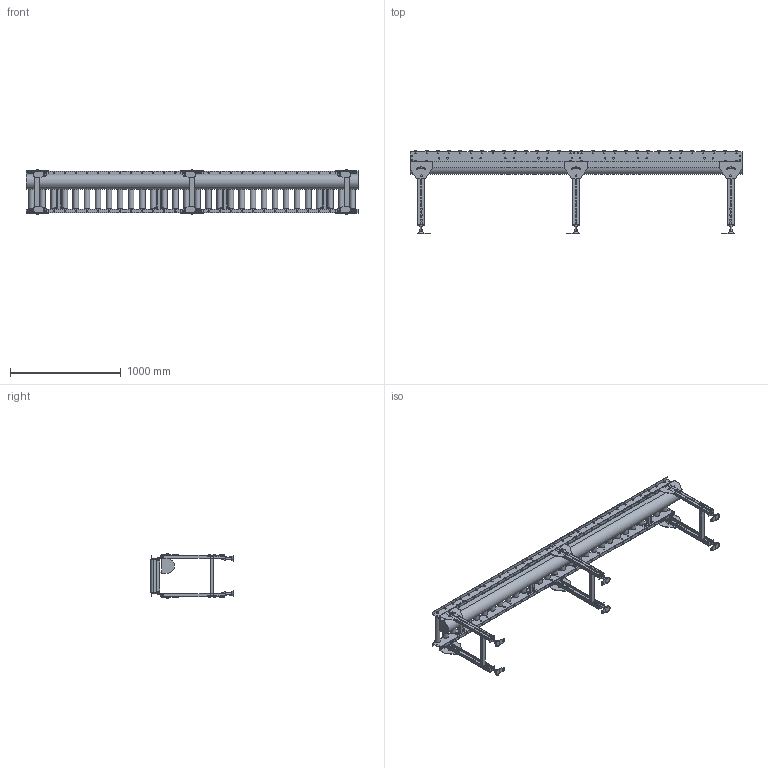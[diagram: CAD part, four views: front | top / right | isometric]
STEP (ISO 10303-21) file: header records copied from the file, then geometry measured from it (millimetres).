
FILE_DESCRIPTION (( 'STEP AP214' ), '1' );
FILE_NAME ('MCD50-ストレート-100P-315.STEP', '2022-08-01T01:58:16', ( '' ), ( '' ), 'SwSTEP 2.0', 'SolidWorks 2017', '' );
FILE_SCHEMA (( 'AUTOMOTIVE_DESIGN' ));
Length unit declared in the file: millimetre
Products named in the file (1): MCD50-ストレート-100P-315
Bounding box: 3000 x 750 x 399.4 mm (x, y, z)
Volume: 66845877.7 mm3; surface area: 6217825.9 mm2
Topology: 28 solids, 74 shells, 3822 faces, 10188 edges, 6472 vertices
Faces by surface type: plane 2493, cylinder 1317, cone 12
Entity records: 162845 total; most frequent: DIRECTION 21380, CARTESIAN_POINT 20879, ORIENTED_EDGE 20376, EDGE_CURVE 10188, AXIS2_PLACEMENT_3D 7381, LINE 6618, VECTOR 6618, VERTEX_POINT 6472
